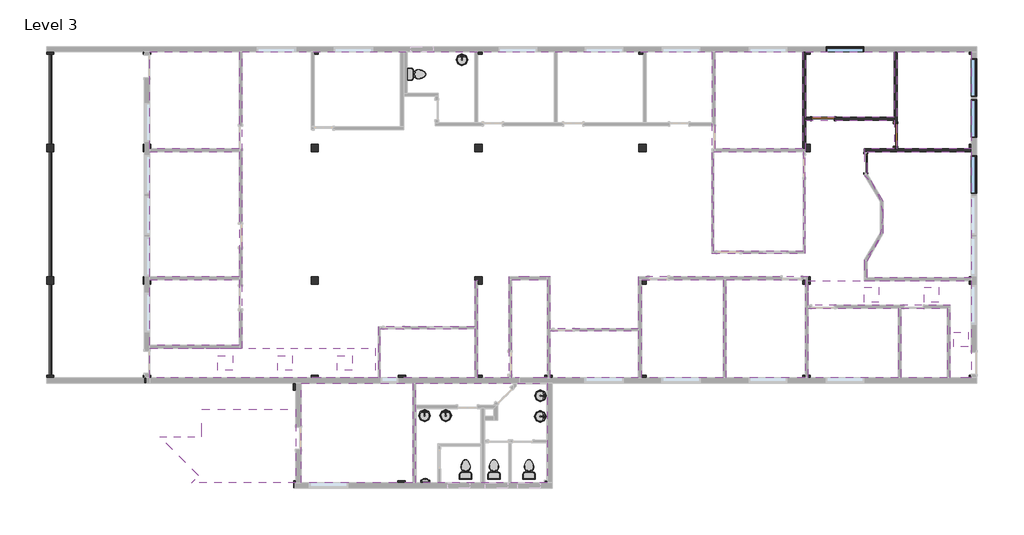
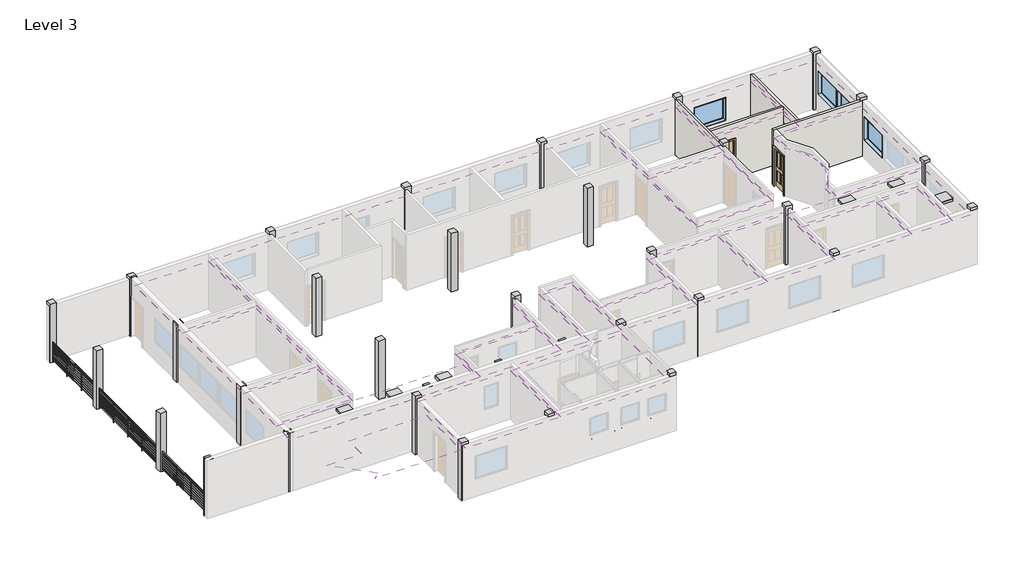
# One storey, part 4 of 4: 34 columns, 21 coverings, 10 flow terminals, 6 light fixtures, 4 walls, 4 windows, 3 doors, 3 railings.
"""IFC4 building model written with IfcOpenShell, lengths in millimetres."""

from ifc_helpers import new_model, si_unit, point, frame, frame_2d, origin, place, context, project, spatial, polyline, circle_curve, trimmed, segment, composite_curve, outline, extrude, faceted_brep, transform, mapped, element, save
from components import concrete_square_column_12_x_12_d780e21f, door_43f271b1, door_0f3f7c0c, door_bfc1a142, m_toilet_domestic_3d_m_toilet_domestic_3d_5cb52bd4, m_toilet_domestic_3d_m_toilet_domestic_3d_183bbd19, flow_terminal_5184717d, urinal_wall_3d_urinal_wall_3d_aeedfa41, m_troffer_lens_0600_x_0600mm_2_lamp_a75f89fe, guardrail_pipe_fa673746, guardrail_pipe_b7ba6c7b, guardrail_pipe_22772604, window_a0bf6c86

model = new_model("IFC4")

# Units and contexts
model_context = context("Model", 3, world=origin())
ifc_project = project(units=[si_unit("LENGTHUNIT", "METRE", prefix="MILLI")], contexts=[model_context])

# Site, building, storey
site = spatial("IfcSite", under=ifc_project)
building = spatial("IfcBuilding", under=site)
storey = spatial("IfcBuildingStorey", under=building, Name="Level 3", Elevation=0.0)

# Columns
placement = place(None, origin())
concrete_square_column_12_x_12_shape = concrete_square_column_12_x_12_d780e21f(model_context)
element("IfcColumn", 1, ObjectType="Concrete-Square-Column : 12 x 12", at=placement, inside=storey, context=model_context, shape_type="MappedRepresentation", body=[
    mapped(concrete_square_column_12_x_12_shape, transform((-26653.1437367, 9911.1191387, 0.0), x_axis=(1.0, 0.0, 0.0), y_axis=(0.0, 1.0, 0.0), z_axis=(0.0, 0.0, 1.0))),
])
element("IfcColumn", 2, ObjectType="Concrete-Square-Column : 12 x 12", at=placement, inside=storey, context=model_context, shape_type="MappedRepresentation", body=[
    mapped(concrete_square_column_12_x_12_shape, transform((-19795.1437367, 9911.1191387, 0.0), x_axis=(1.0, 0.0, 0.0), y_axis=(0.0, 1.0, 0.0), z_axis=(0.0, 0.0, 1.0))),
])
element("IfcColumn", 3, ObjectType="Concrete-Square-Column : 12 x 12", at=placement, inside=storey, context=model_context, shape_type="MappedRepresentation", body=[
    mapped(concrete_square_column_12_x_12_shape, transform((-13089.5437367, 9911.1191387, 0.0), x_axis=(1.0, 0.0, 0.0), y_axis=(0.0, 1.0, 0.0), z_axis=(0.0, 0.0, 1.0))),
])
element("IfcColumn", 4, ObjectType="Concrete-Square-Column : 12 x 12", at=placement, inside=storey, context=model_context, shape_type="MappedRepresentation", body=[
    mapped(concrete_square_column_12_x_12_shape, transform((-6383.9437367, 9911.1191387, 0.0), x_axis=(1.0, 0.0, 0.0), y_axis=(0.0, 1.0, 0.0), z_axis=(0.0, 0.0, 1.0))),
])
element("IfcColumn", 5, ObjectType="Concrete-Square-Column : 12 x 12", at=placement, inside=storey, context=model_context, shape_type="MappedRepresentation", body=[
    mapped(concrete_square_column_12_x_12_shape, transform((321.6562633, 9911.1191387, 0.0), x_axis=(1.0, 0.0, 0.0), y_axis=(0.0, 1.0, 0.0), z_axis=(0.0, 0.0, 1.0))),
])
element("IfcColumn", 6, ObjectType="Concrete-Square-Column : 12 x 12", at=placement, inside=storey, context=model_context, shape_type="MappedRepresentation", body=[
    mapped(concrete_square_column_12_x_12_shape, transform((7124.0937633, 9911.1191387, 0.0), x_axis=(1.0, 0.0, 0.0), y_axis=(0.0, 1.0, 0.0), z_axis=(0.0, 0.0, 1.0))),
])
element("IfcColumn", 7, ObjectType="Concrete-Square-Column : 12 x 12", at=placement, inside=storey, context=model_context, shape_type="MappedRepresentation", body=[
    mapped(concrete_square_column_12_x_12_shape, transform((-26653.1437367, 5928.0816387, 0.0), x_axis=(1.0, 0.0, 0.0), y_axis=(0.0, 1.0, 0.0), z_axis=(0.0, 0.0, 1.0))),
])
element("IfcColumn", 8, ObjectType="Concrete-Square-Column : 12 x 12", at=placement, inside=storey, context=model_context, shape_type="MappedRepresentation", body=[
    mapped(concrete_square_column_12_x_12_shape, transform((-26653.1437367, 514.7066387, 0.0), x_axis=(1.0, 0.0, 0.0), y_axis=(0.0, 1.0, 0.0), z_axis=(0.0, 0.0, 1.0))),
])
element("IfcColumn", 9, ObjectType="Concrete-Square-Column : 12 x 12", at=placement, inside=storey, context=model_context, shape_type="MappedRepresentation", body=[
    mapped(concrete_square_column_12_x_12_shape, transform((-26653.1437367, -3531.8308613, 0.0), x_axis=(1.0, 0.0, 0.0), y_axis=(0.0, 1.0, 0.0), z_axis=(0.0, 0.0, 1.0))),
])
element("IfcColumn", 10, ObjectType="Concrete-Square-Column : 12 x 12", at=placement, inside=storey, context=model_context, shape_type="MappedRepresentation", body=[
    mapped(concrete_square_column_12_x_12_shape, transform((-19795.1437367, -3531.8308613, 0.0), x_axis=(1.0, 0.0, 0.0), y_axis=(0.0, 1.0, 0.0), z_axis=(0.0, 0.0, 1.0))),
])
element("IfcColumn", 11, ObjectType="Concrete-Square-Column : 12 x 12", at=placement, inside=storey, context=model_context, shape_type="MappedRepresentation", body=[
    mapped(concrete_square_column_12_x_12_shape, transform((-19795.1437367, 514.7066387, 0.0), x_axis=(1.0, 0.0, 0.0), y_axis=(0.0, 1.0, 0.0), z_axis=(0.0, 0.0, 1.0))),
])
element("IfcColumn", 12, ObjectType="Concrete-Square-Column : 12 x 12", at=placement, inside=storey, context=model_context, shape_type="MappedRepresentation", body=[
    mapped(concrete_square_column_12_x_12_shape, transform((-13089.5437367, 514.7066387, 0.0), x_axis=(1.0, 0.0, 0.0), y_axis=(0.0, 1.0, 0.0), z_axis=(0.0, 0.0, 1.0))),
])
element("IfcColumn", 13, ObjectType="Concrete-Square-Column : 12 x 12", at=placement, inside=storey, context=model_context, shape_type="MappedRepresentation", body=[
    mapped(concrete_square_column_12_x_12_shape, transform((-13089.5437367, -3531.8308613, 0.0), x_axis=(1.0, 0.0, 0.0), y_axis=(0.0, 1.0, 0.0), z_axis=(0.0, 0.0, 1.0))),
])
element("IfcColumn", 14, ObjectType="Concrete-Square-Column : 12 x 12", at=placement, inside=storey, context=model_context, shape_type="MappedRepresentation", body=[
    mapped(concrete_square_column_12_x_12_shape, transform((-6383.9437367, -3531.8308613, 0.0), x_axis=(1.0, 0.0, 0.0), y_axis=(0.0, 1.0, 0.0), z_axis=(0.0, 0.0, 1.0))),
])
element("IfcColumn", 15, ObjectType="Concrete-Square-Column : 12 x 12", at=placement, inside=storey, context=model_context, shape_type="MappedRepresentation", body=[
    mapped(concrete_square_column_12_x_12_shape, transform((-6383.9437367, 514.7066387, 0.0), x_axis=(1.0, 0.0, 0.0), y_axis=(0.0, 1.0, 0.0), z_axis=(0.0, 0.0, 1.0))),
])
element("IfcColumn", 16, ObjectType="Concrete-Square-Column : 12 x 12", at=placement, inside=storey, context=model_context, shape_type="MappedRepresentation", body=[
    mapped(concrete_square_column_12_x_12_shape, transform((321.6562633, 514.7066387, 0.0), x_axis=(1.0, 0.0, 0.0), y_axis=(0.0, 1.0, 0.0), z_axis=(0.0, 0.0, 1.0))),
])
element("IfcColumn", 17, ObjectType="Concrete-Square-Column : 12 x 12", at=placement, inside=storey, context=model_context, shape_type="MappedRepresentation", body=[
    mapped(concrete_square_column_12_x_12_shape, transform((321.6562633, -3531.8308613, 0.0), x_axis=(1.0, 0.0, 0.0), y_axis=(0.0, 1.0, 0.0), z_axis=(0.0, 0.0, 1.0))),
])
element("IfcColumn", 18, ObjectType="Concrete-Square-Column : 12 x 12", at=placement, inside=storey, context=model_context, shape_type="MappedRepresentation", body=[
    mapped(concrete_square_column_12_x_12_shape, transform((7124.0937633, -3531.8308613, 0.0), x_axis=(1.0, 0.0, 0.0), y_axis=(0.0, 1.0, 0.0), z_axis=(0.0, 0.0, 1.0))),
])
element("IfcColumn", 19, ObjectType="Concrete-Square-Column : 12 x 12", at=placement, inside=storey, context=model_context, shape_type="MappedRepresentation", body=[
    mapped(concrete_square_column_12_x_12_shape, transform((7124.0937633, 514.7066387, 0.0), x_axis=(1.0, 0.0, 0.0), y_axis=(0.0, 1.0, 0.0), z_axis=(0.0, 0.0, 1.0))),
])
element("IfcColumn", 20, ObjectType="Concrete-Square-Column : 12 x 12", at=placement, inside=storey, context=model_context, shape_type="MappedRepresentation", body=[
    mapped(concrete_square_column_12_x_12_shape, transform((7124.0937633, 5928.0816387, 0.0), x_axis=(1.0, 0.0, 0.0), y_axis=(0.0, 1.0, 0.0), z_axis=(0.0, 0.0, 1.0))),
])
element("IfcColumn", 21, ObjectType="Concrete-Square-Column : 12 x 12", at=placement, inside=storey, context=model_context, shape_type="MappedRepresentation", body=[
    mapped(concrete_square_column_12_x_12_shape, transform((321.6562633, 5928.0816387, 0.0), x_axis=(1.0, 0.0, 0.0), y_axis=(0.0, 1.0, 0.0), z_axis=(0.0, 0.0, 1.0))),
])
element("IfcColumn", 22, ObjectType="Concrete-Square-Column : 12 x 12", at=placement, inside=storey, context=model_context, shape_type="MappedRepresentation", body=[
    mapped(concrete_square_column_12_x_12_shape, transform((-6383.9437367, 5928.0816387, 0.0), x_axis=(1.0, 0.0, 0.0), y_axis=(0.0, 1.0, 0.0), z_axis=(0.0, 0.0, 1.0))),
])
element("IfcColumn", 23, ObjectType="Concrete-Square-Column : 12 x 12", at=placement, inside=storey, context=model_context, shape_type="MappedRepresentation", body=[
    mapped(concrete_square_column_12_x_12_shape, transform((-13089.5437367, 5928.0816387, 0.0), x_axis=(1.0, 0.0, 0.0), y_axis=(0.0, 1.0, 0.0), z_axis=(0.0, 0.0, 1.0))),
])
element("IfcColumn", 24, ObjectType="Concrete-Square-Column : 12 x 12", at=placement, inside=storey, context=model_context, shape_type="MappedRepresentation", body=[
    mapped(concrete_square_column_12_x_12_shape, transform((-19795.1437367, 5928.0816387, 0.0), x_axis=(1.0, 0.0, 0.0), y_axis=(0.0, 1.0, 0.0), z_axis=(0.0, 0.0, 1.0))),
])
element("IfcColumn", 25, ObjectType="Concrete-Square-Column : 12 x 12", at=placement, inside=storey, context=model_context, shape_type="MappedRepresentation", body=[
    mapped(concrete_square_column_12_x_12_shape, transform((-30615.5437367, -3531.8308613, 0.0), x_axis=(1.0, 0.0, 0.0), y_axis=(0.0, 1.0, 0.0), z_axis=(0.0, 0.0, 1.0))),
])
element("IfcColumn", 26, ObjectType="Concrete-Square-Column : 12 x 12", at=placement, inside=storey, context=model_context, shape_type="MappedRepresentation", body=[
    mapped(concrete_square_column_12_x_12_shape, transform((-30615.5437367, 514.7066387, 0.0), x_axis=(1.0, 0.0, 0.0), y_axis=(0.0, 1.0, 0.0), z_axis=(0.0, 0.0, 1.0))),
])
element("IfcColumn", 27, ObjectType="Concrete-Square-Column : 12 x 12", at=placement, inside=storey, context=model_context, shape_type="MappedRepresentation", body=[
    mapped(concrete_square_column_12_x_12_shape, transform((-30615.5437367, 5928.0816387, 0.0), x_axis=(1.0, 0.0, 0.0), y_axis=(0.0, 1.0, 0.0), z_axis=(0.0, 0.0, 1.0))),
])
element("IfcColumn", 28, ObjectType="Concrete-Square-Column : 12 x 12", at=placement, inside=storey, context=model_context, shape_type="MappedRepresentation", body=[
    mapped(concrete_square_column_12_x_12_shape, transform((-30615.5437367, 9911.1191387, 0.0), x_axis=(1.0, 0.0, 0.0), y_axis=(0.0, 1.0, 0.0), z_axis=(0.0, 0.0, 1.0))),
])
element("IfcColumn", 29, ObjectType="Concrete-Square-Column : 12 x 12", at=placement, inside=storey, context=model_context, shape_type="MappedRepresentation", body=[
    mapped(concrete_square_column_12_x_12_shape, transform((-10236.8062367, -3531.8308613, 0.0), x_axis=(1.0, 0.0, 0.0), y_axis=(0.0, 1.0, 0.0), z_axis=(0.0, 0.0, 1.0))),
])
element("IfcColumn", 30, ObjectType="Concrete-Square-Column : 12 x 12", at=placement, inside=storey, context=model_context, shape_type="MappedRepresentation", body=[
    mapped(concrete_square_column_12_x_12_shape, transform((-10236.8062367, -7829.1933613, 0.0), x_axis=(1.0, 0.0, 0.0), y_axis=(0.0, 1.0, 0.0), z_axis=(0.0, 0.0, 1.0))),
])
element("IfcColumn", 31, ObjectType="Concrete-Square-Column : 12 x 12", at=placement, inside=storey, context=model_context, shape_type="MappedRepresentation", body=[
    mapped(concrete_square_column_12_x_12_shape, transform((-16232.7937367, -3531.8308613, 0.0), x_axis=(1.0, 0.0, 0.0), y_axis=(0.0, 1.0, 0.0), z_axis=(0.0, 0.0, 1.0))),
])
element("IfcColumn", 32, ObjectType="Concrete-Square-Column : 12 x 12", at=placement, inside=storey, context=model_context, shape_type="MappedRepresentation", body=[
    mapped(concrete_square_column_12_x_12_shape, transform((-20515.8687367, -3836.6308613, 0.0), x_axis=(1.0, 0.0, 0.0), y_axis=(0.0, 1.0, 0.0), z_axis=(0.0, 0.0, 1.0))),
])
element("IfcColumn", 33, ObjectType="Concrete-Square-Column : 12 x 12", at=placement, inside=storey, context=model_context, shape_type="MappedRepresentation", body=[
    mapped(concrete_square_column_12_x_12_shape, transform((-16241.6288114, -7829.1933613, 0.0), x_axis=(1.0, 0.0, 0.0), y_axis=(0.0, 1.0, 0.0), z_axis=(0.0, 0.0, 1.0))),
])
element("IfcColumn", 34, ObjectType="Concrete-Square-Column : 12 x 12", at=placement, inside=storey, context=model_context, shape_type="MappedRepresentation", body=[
    mapped(concrete_square_column_12_x_12_shape, transform((-20508.8288114, -7829.1933613, 0.0), x_axis=(1.0, 0.0, 0.0), y_axis=(0.0, 1.0, 0.0), z_axis=(0.0, 0.0, 1.0))),
])

# Coverings
element("IfcCovering", 35, ObjectType="2' x 4' ACT System", at=placement, inside=storey, context=model_context, shape_type="SweptSolid", body=[
    extrude(outline(polyline([(-26543.6062367, 5899.5066387), (-26543.6062367, 9857.1441387), (-22890.7687367, 9857.1441387), (-22890.7687367, 5899.5066387), (-26543.6062367, 5899.5066387)])), frame((0.0, 0.0, 2514.6), z_axis=(0.0, 0.0, 1.0), x_axis=(1.0, 0.0, 0.0)), (0.0, 0.0, 1.0), 57.15),
])
element("IfcCovering", 36, ObjectType="2' x 4' ACT System", at=placement, inside=storey, context=model_context, shape_type="SweptSolid", body=[
    extrude(outline(polyline([(-22890.7687367, 667.1066387), (-26543.6062367, 667.1066387), (-26543.6062367, 5775.6816387), (-22890.7687367, 5775.6816387), (-22890.7687367, 667.1066387)])), frame((0.0, 0.0, 2514.6), z_axis=(0.0, 0.0, 1.0), x_axis=(1.0, 0.0, 0.0)), (0.0, 0.0, 1.0), 57.15),
])
element("IfcCovering", 37, ObjectType="2' x 4' ACT System", at=placement, inside=storey, context=model_context, shape_type="SweptSolid", body=[
    extrude(outline(polyline([(-22890.7687367, -2145.4141947), (-26543.6062367, -2145.4141947), (-26543.6062367, 543.2816387), (-22890.7687367, 543.2816387), (-22890.7687367, -2145.4141947)])), frame((0.0, 0.0, 2514.6), z_axis=(0.0, 0.0, 1.0), x_axis=(1.0, 0.0, 0.0)), (0.0, 0.0, 1.0), 57.15),
])
element("IfcCovering", 38, ObjectType="2' x 4' ACT System", at=placement, inside=storey, context=model_context, shape_type="SweptSolid", body=[
    extrude(outline(polyline([(-3413.7312367, 9857.1441387), (169.2562633, 9857.1441387), (169.2562633, 5893.1566387), (-3413.7312367, 5893.1566387), (-3413.7312367, 9857.1441387)])), frame((0.0, 0.0, 2514.6), z_axis=(0.0, 0.0, 1.0), x_axis=(1.0, 0.0, 0.0)), (0.0, 0.0, 1.0), 57.15),
])
element("IfcCovering", 39, ObjectType="2' x 4' ACT System", at=placement, inside=storey, context=model_context, shape_type="SweptSolid", body=[
    extrude(outline(polyline([(293.0812633, 9857.1441387), (3903.0562633, 9857.1441387), (3903.0562633, 7182.2066387), (293.0812633, 7182.2066387), (293.0812633, 9857.1441387)])), frame((0.0, 0.0, 2514.6), z_axis=(0.0, 0.0, 1.0), x_axis=(1.0, 0.0, 0.0)), (0.0, 0.0, 1.0), 57.15),
])
element("IfcCovering", 40, ObjectType="2' x 4' ACT System", at=placement, inside=storey, context=model_context, shape_type="SweptSolid", body=[
    extrude(outline(polyline([(4026.8812633, 9857.1441387), (7070.1187633, 9857.1441387), (7070.1187633, 5893.1566387), (4026.8812633, 5893.1566387), (4026.8812633, 9857.1441387)])), frame((0.0, 0.0, 2514.6), z_axis=(0.0, 0.0, 1.0), x_axis=(1.0, 0.0, 0.0)), (0.0, 0.0, 1.0), 57.15),
])
element("IfcCovering", 41, ObjectType="2' x 4' ACT System", at=placement, inside=storey, context=model_context, shape_type="SweptSolid", body=[
    extrude(outline(composite_curve([segment(polyline([(2807.6812633, 5769.3316387), (7070.1187633, 5769.3316387), (7070.1187633, 622.6566387), (2807.6812633, 622.6566387), (2807.6812633, 1302.9026762)]), True, "CONTINUOUS"), segment(trimmed(circle_curve(frame_2d((1057.0149454, 3088.0441387)), 2500.3125), [point((2807.6812633, 1302.9026762))], [point((2807.6812633, 4873.1856011))], True, "CARTESIAN"), True, "CONTINUOUS"), segment(polyline([(2807.6812633, 4873.1856011), (2807.6812633, 5769.3316387)]), True, "CONTINUOUS")], self_intersect=False)), frame((0.0, 0.0, 2514.6), z_axis=(0.0, 0.0, 1.0), x_axis=(1.0, 0.0, 0.0)), (0.0, 0.0, 1.0), 57.15),
])
element("IfcCovering", 42, ObjectType="2' x 4' ACT System", at=placement, inside=storey, context=model_context, shape_type="SweptSolid", body=[
    extrude(outline(polyline([(-3466.1187367, 1700.5691387), (-3466.1187367, 5769.3316387), (191.4812633, 5769.3316387), (191.4812633, 1700.5691387), (-3466.1187367, 1700.5691387)])), frame((0.0, 0.0, 2514.6), z_axis=(0.0, 0.0, 1.0), x_axis=(1.0, 0.0, 0.0)), (0.0, 0.0, 1.0), 57.15),
])
element("IfcCovering", 43, ObjectType="2' x 4' ACT System", at=placement, inside=storey, context=model_context, shape_type="SweptSolid", body=[
    extrude(outline(polyline([(-2956.5312367, 543.2816387), (259.7437633, 543.2816387), (259.7437633, -3477.8558613), (-2956.5312367, -3477.8558613), (-2956.5312367, 543.2816387)])), frame((0.0, 0.0, 2514.6), z_axis=(0.0, 0.0, 1.0), x_axis=(1.0, 0.0, 0.0)), (0.0, 0.0, 1.0), 57.15),
])
element("IfcCovering", 44, ObjectType="2' x 4' ACT System", at=placement, inside=storey, context=model_context, shape_type="SweptSolid", body=[
    extrude(outline(polyline([(-6428.3937367, 543.2816387), (-3080.3562367, 543.2816387), (-3080.3562367, -3477.8558613), (-6428.3937367, -3477.8558613), (-6428.3937367, 543.2816387)])), frame((0.0, 0.0, 2514.6), z_axis=(0.0, 0.0, 1.0), x_axis=(1.0, 0.0, 0.0)), (0.0, 0.0, 1.0), 57.15),
])
element("IfcCovering", 45, ObjectType="2' x 4' ACT System", at=placement, inside=storey, context=model_context, shape_type="SweptSolid", body=[
    extrude(outline(polyline([(4068.1562633, -3477.8558613), (383.5687633, -3477.8558613), (383.5687633, -631.4683613), (4068.1562633, -631.4683613), (4068.1562633, -3477.8558613)])), frame((0.0, 0.0, 2514.6), z_axis=(0.0, 0.0, 1.0), x_axis=(1.0, 0.0, 0.0)), (0.0, 0.0, 1.0), 57.15),
])
element("IfcCovering", 46, ObjectType="2' x 4' ACT System", at=placement, inside=storey, context=model_context, shape_type="SweptSolid", body=[
    extrude(outline(polyline([(6079.5187633, -3477.8558613), (4191.9812633, -3477.8558613), (4191.9812633, -631.4683613), (6079.5187633, -631.4683613), (6079.5187633, -3477.8558613)])), frame((0.0, 0.0, 2514.6), z_axis=(0.0, 0.0, 1.0), x_axis=(1.0, 0.0, 0.0)), (0.0, 0.0, 1.0), 57.15),
])
element("IfcCovering", 47, ObjectType="2' x 4' ACT System", at=placement, inside=storey, context=model_context, shape_type="SweptSolid", body=[
    extrude(outline(polyline([(-10157.4312367, -1555.3933613), (-6552.2187367, -1555.3933613), (-6552.2187367, -3477.8558613), (-10157.4312367, -3477.8558613), (-10157.4312367, -1555.3933613)])), frame((0.0, 0.0, 2514.6), z_axis=(0.0, 0.0, 1.0), x_axis=(1.0, 0.0, 0.0)), (0.0, 0.0, 1.0), 57.15),
])
element("IfcCovering", 48, ObjectType="2' x 4' ACT System", at=placement, inside=storey, context=model_context, shape_type="SweptSolid", body=[
    extrude(outline(polyline([(-11744.9312367, 543.2816387), (-10281.2562367, 543.2816387), (-10281.2562367, -3477.8558613), (-11425.8437367, -3477.8558613), (-11744.9312367, -3477.8558613), (-11744.9312367, 543.2816387)])), frame((0.0, 0.0, 2514.6), z_axis=(0.0, 0.0, 1.0), x_axis=(1.0, 0.0, 0.0)), (0.0, 0.0, 1.0), 57.15),
])
element("IfcCovering", 49, ObjectType="2' x 4' ACT System", at=placement, inside=storey, context=model_context, shape_type="SweptSolid", body=[
    extrude(outline(polyline([(-17121.7937367, -1463.3183613), (-13257.8187367, -1463.3183613), (-13257.8187367, -3477.8558613), (-17121.7937367, -3477.8558613), (-17121.7937367, -1463.3183613)])), frame((0.0, 0.0, 2514.6), z_axis=(0.0, 0.0, 1.0), x_axis=(1.0, 0.0, 0.0)), (0.0, 0.0, 1.0), 57.15),
])
element("IfcCovering", 50, ObjectType="2' x 4' ACT System", at=placement, inside=storey, context=model_context, shape_type="SweptSolid", body=[
    extrude(outline(polyline([(-15789.8812367, -3696.9308613), (-15789.8812367, -7775.2183613), (-20357.1187367, -7775.2183613), (-20357.1187367, -3696.9308613), (-15789.8812367, -3696.9308613)])), frame((0.0, 0.0, 2514.6), z_axis=(0.0, 0.0, 1.0), x_axis=(1.0, 0.0, 0.0)), (0.0, 0.0, 1.0), 57.15),
])
element("IfcCovering", 51, ObjectType="2' x 4' ACT System", at=placement, inside=storey, context=model_context, shape_type="SweptSolid", body=[
    extrude(outline(polyline([(-20577.7812367, -4763.7308613), (-20577.7812367, -7775.2183613), (-24820.8636362, -7775.2183613), (-24537.54093, -7491.8956552), (-26143.2483849, -5886.1882003), (-24410.0062367, -5886.1882003), (-24410.0062367, -4763.7308613), (-20577.7812367, -4763.7308613)])), frame((0.0, 0.0, 2514.6), z_axis=(0.0, 0.0, 1.0), x_axis=(1.0, 0.0, 0.0)), (0.0, 0.0, 1.0), 57.15),
])
element("IfcCovering", 52, ObjectType="2' x 4' ACT System", at=placement, inside=storey, context=model_context, shape_type="SweptSolid", body=[
    extrude(outline(polyline([(383.5687633, 498.8316387), (7070.1187633, 498.8316387), (7070.1187633, -3477.8558613), (6203.3437633, -3477.8558613), (6203.3437633, -507.6433613), (383.5687633, -507.6433613), (383.5687633, 498.8316387)]), holes=[polyline([(6940.6164695, -1605.3996113), (6340.6164695, -1605.3996113), (6340.6164695, -2205.3996113), (6940.6164695, -2205.3996113), (6940.6164695, -1605.3996113)]), polyline([(5731.0164695, 223.4003887), (5131.0164695, 223.4003887), (5131.0164695, -376.5996113), (5731.0164695, -376.5996113), (5731.0164695, 223.4003887)]), polyline([(3283.0164695, 223.4003887), (2683.0164695, 223.4003887), (2683.0164695, -376.5996113), (3283.0164695, -376.5996113), (3283.0164695, 223.4003887)])]), frame((0.0, 0.0, 2514.6), z_axis=(0.0, 0.0, 1.0), x_axis=(1.0, 0.0, 0.0)), (0.0, 0.0, 1.0), 57.15),
])
element("IfcCovering", 53, ObjectType="2' x 4' ACT System", at=placement, inside=storey, context=model_context, shape_type="SweptSolid", body=[
    extrude(outline(polyline([(-17313.8812367, -2269.2391947), (-17313.8812367, -3477.8558613), (-26543.6062367, -3477.8558613), (-26543.6062367, -2269.2391947), (-17313.8812367, -2269.2391947)]), holes=[polyline([(-23157.5437367, -2568.822528), (-23757.5437367, -2568.822528), (-23757.5437367, -3168.822528), (-23157.5437367, -3168.822528), (-23157.5437367, -2568.822528)]), polyline([(-18267.9687367, -2573.0558613), (-18867.9687367, -2573.0558613), (-18867.9687367, -3173.0558613), (-18267.9687367, -3173.0558613), (-18267.9687367, -2573.0558613)]), polyline([(-20706.3687367, -2573.0558613), (-21306.3687367, -2573.0558613), (-21306.3687367, -3173.0558613), (-20706.3687367, -3173.0558613), (-20706.3687367, -2573.0558613)])]), frame((0.0, 0.0, 2514.6), z_axis=(0.0, 0.0, 1.0), x_axis=(1.0, 0.0, 0.0)), (0.0, 0.0, 1.0), 57.15),
])
element("IfcCovering", 54, ObjectType="2' x 4' ACT System", at=placement, inside=storey, context=model_context, shape_type="SweptSolid", body=[
    extrude(outline(polyline([(-10290.7812367, -3696.9308613), (-10290.7812367, -7775.2183613), (-15666.0562367, -7775.2183613), (-15666.0562367, -3696.9308613), (-10290.7812367, -3696.9308613)])), frame((0.0, 0.0, 2514.6), z_axis=(0.0, 0.0, 1.0), x_axis=(1.0, 0.0, 0.0)), (0.0, 0.0, 1.0), 57.15),
])
element("IfcCovering", 55, ObjectType="2' x 4' ACT System", at=placement, inside=storey, context=model_context, shape_type="SweptSolid", body=[
    extrude(outline(composite_curve([segment(polyline([(-17201.1687367, -3477.8558613), (-26543.6062367, -3477.8558613), (-26543.6062367, -2269.2391947), (-22766.9437367, -2269.2391947), (-22766.9437367, 9857.1441387), (-3545.4937367, 9857.1441387), (-3545.4937367, 1621.1941387), (270.8562633, 1621.1941387), (270.8562633, 5831.2441387), (293.0812633, 5831.2441387), (293.0812633, 7058.3816387), (3903.0562633, 7058.3816387), (3903.0562633, 5893.1566387), (2683.8562633, 5893.1566387), (2683.8562633, 4820.4067347)]), True, "CONTINUOUS"), segment(trimmed(circle_curve(frame_2d((1057.0149454, 3088.0441387)), 2376.4875), [point((2683.8562633, 4820.4067347))], [point((2683.8562633, 1355.6815427))], False, "CARTESIAN"), True, "CONTINUOUS"), segment(polyline([(2683.8562633, 1355.6815427), (2683.8562633, 498.8316387), (7070.1187633, 498.8316387), (7070.1187633, -3477.8558613), (6203.3437633, -3477.8558613), (6203.3437633, -507.6433613), (383.5687633, -507.6433613), (383.5687633, 667.1066387), (-6552.2187367, 667.1066387), (-6552.2187367, -1476.0183613), (-10157.4312367, -1476.0183613), (-10157.4312367, 667.1066387), (-11868.7562367, 667.1066387), (-11868.7562367, -3477.8558613), (-13133.9937367, -3477.8558613), (-13133.9937367, 497.2441387), (-13257.8187367, 497.2441387), (-13257.8187367, -1383.9433613), (-17201.1687367, -1383.9433613), (-17201.1687367, -3477.8558613)]), True, "CONTINUOUS")], self_intersect=False)), frame((0.0, 0.0, 2514.6), z_axis=(0.0, 0.0, 1.0), x_axis=(1.0, 0.0, 0.0)), (0.0, 0.0, 1.0), 57.15),
])

# Doors
door_shape = door_43f271b1(model_context)
element("IfcDoor", 56, ObjectType="Single-Flush : 36\" x 80\" - D1", at=placement, inside=storey, context=model_context, shape_type="MappedRepresentation", body=[
    mapped(door_shape, transform((3964.9687633, 6459.8941387, 0.0), x_axis=(0.0, -1.0, 0.0), y_axis=(1.0, 0.0, 0.0), z_axis=(0.0, 0.0, 1.0))),
])
door_2_shape = door_0f3f7c0c(model_context)
element("IfcDoor", 57, ObjectType="Single-Flush : 36\" x 80\" - D1", at=placement, inside=storey, context=model_context, shape_type="MappedRepresentation", body=[
    mapped(door_2_shape, transform((1001.1062633, 7120.2941387, 0.0), x_axis=(-1.0, 0.0, 0.0), y_axis=(0.0, -1.0, 0.0), z_axis=(0.0, 0.0, 1.0))),
])
door_3_shape = door_bfc1a142(model_context)
element("IfcDoor", 58, ObjectType="Single-Glass 3 : 30\" x 80\" - D3", at=placement, inside=storey, context=model_context, shape_type="MappedRepresentation", body=[
    mapped(door_3_shape, transform((2745.7687633, 5304.1941387, 0.0), x_axis=(0.0, 1.0, 0.0), y_axis=(-1.0, 0.0, 0.0), z_axis=(0.0, 0.0, 1.0))),
])

# Flow terminals
m_toilet_domestic_3d_m_toilet_domestic_3d_shape = m_toilet_domestic_3d_m_toilet_domestic_3d_5cb52bd4(model_context)
m_toilet_domestic_3d_m_toilet_domestic_3d_2_shape = m_toilet_domestic_3d_m_toilet_domestic_3d_183bbd19(model_context)
element("IfcFlowTerminal", 59, ObjectType="M_Toilet-Domestic-3D : M_Toilet-Domestic-3D", at=placement, inside=storey, context=model_context, shape_type="MappedRepresentation", body=[
    mapped(m_toilet_domestic_3d_m_toilet_domestic_3d_shape, transform((-15554.9312367, 8942.7441387, 0.0), x_axis=(0.0, 1.0, 0.0), y_axis=(-1.0, 0.0, 0.0), z_axis=(0.0, 0.0, 1.0))),
    mapped(m_toilet_domestic_3d_m_toilet_domestic_3d_2_shape, transform((-15554.9312367, 8942.7441387, 0.0), x_axis=(0.0, 1.0, 0.0), y_axis=(-1.0, 0.0, 0.0), z_axis=(0.0, 0.0, 1.0))),
])
element("IfcFlowTerminal", 60, ObjectType="M_Toilet-Domestic-3D : M_Toilet-Domestic-3D", at=placement, inside=storey, context=model_context, shape_type="MappedRepresentation", body=[
    mapped(m_toilet_domestic_3d_m_toilet_domestic_3d_shape, transform((-13622.9437367, -7128.122334, 0.0), x_axis=(-1.0, 0.0, 0.0), y_axis=(0.0, -1.0, 0.0), z_axis=(0.0, 0.0, 1.0))),
    mapped(m_toilet_domestic_3d_m_toilet_domestic_3d_2_shape, transform((-13622.9437367, -7128.122334, 0.0), x_axis=(-1.0, 0.0, 0.0), y_axis=(0.0, -1.0, 0.0), z_axis=(0.0, 0.0, 1.0))),
])
element("IfcFlowTerminal", 61, ObjectType="M_Toilet-Domestic-3D : M_Toilet-Domestic-3D", at=placement, inside=storey, context=model_context, shape_type="MappedRepresentation", body=[
    mapped(m_toilet_domestic_3d_m_toilet_domestic_3d_shape, transform((-12463.5969338, -7128.122334, 0.0), x_axis=(-1.0, 0.0, 0.0), y_axis=(0.0, -1.0, 0.0), z_axis=(0.0, 0.0, 1.0))),
    mapped(m_toilet_domestic_3d_m_toilet_domestic_3d_2_shape, transform((-12463.5969338, -7128.122334, 0.0), x_axis=(-1.0, 0.0, 0.0), y_axis=(0.0, -1.0, 0.0), z_axis=(0.0, 0.0, 1.0))),
])
element("IfcFlowTerminal", 62, ObjectType="M_Toilet-Domestic-3D : M_Toilet-Domestic-3D", at=placement, inside=storey, context=model_context, shape_type="MappedRepresentation", body=[
    mapped(m_toilet_domestic_3d_m_toilet_domestic_3d_shape, transform((-11029.7624867, -7128.122334, 0.0), x_axis=(-1.0, 0.0, 0.0), y_axis=(0.0, -1.0, 0.0), z_axis=(0.0, 0.0, 1.0))),
    mapped(m_toilet_domestic_3d_m_toilet_domestic_3d_2_shape, transform((-11029.7624867, -7128.122334, 0.0), x_axis=(-1.0, 0.0, 0.0), y_axis=(0.0, -1.0, 0.0), z_axis=(0.0, 0.0, 1.0))),
])
flow_terminal_shape = flow_terminal_5184717d(model_context)
element("IfcFlowTerminal", 63, ObjectType="Sink Vanity-Round : 19\" x 19\"", at=placement, inside=storey, context=model_context, shape_type="MappedRepresentation", body=[
    mapped(flow_terminal_shape, transform((-13871.9954773, 9453.1948467, 0.0), x_axis=(1.0, 0.0, 0.0), y_axis=(0.0, 1.0, 0.0), z_axis=(0.0, 0.0, 1.0))),
])
element("IfcFlowTerminal", 64, ObjectType="Sink Vanity-Round : 19\" x 19\"", at=placement, inside=storey, context=model_context, shape_type="MappedRepresentation", body=[
    mapped(flow_terminal_shape, transform((-10648.1566378, -4115.4228708, 0.0), x_axis=(0.0, -1.0, 0.0), y_axis=(1.0, 0.0, 0.0), z_axis=(0.0, 0.0, 1.0))),
])
element("IfcFlowTerminal", 65, ObjectType="Sink Vanity-Round : 19\" x 19\"", at=placement, inside=storey, context=model_context, shape_type="MappedRepresentation", body=[
    mapped(flow_terminal_shape, transform((-10653.9209952, -4959.1791208, 0.0), x_axis=(0.0, -1.0, 0.0), y_axis=(1.0, 0.0, 0.0), z_axis=(0.0, 0.0, 1.0))),
])
element("IfcFlowTerminal", 66, ObjectType="Sink Vanity-Round : 19\" x 19\"", at=placement, inside=storey, context=model_context, shape_type="MappedRepresentation", body=[
    mapped(flow_terminal_shape, transform((-14535.5704773, -5108.5957547, 0.0), x_axis=(1.0, 0.0, 0.0), y_axis=(0.0, 1.0, 0.0), z_axis=(0.0, 0.0, 1.0))),
])
element("IfcFlowTerminal", 67, ObjectType="Sink Vanity-Round : 19\" x 19\"", at=placement, inside=storey, context=model_context, shape_type="MappedRepresentation", body=[
    mapped(flow_terminal_shape, transform((-15399.1704773, -5108.5957547, 0.0), x_axis=(1.0, 0.0, 0.0), y_axis=(0.0, 1.0, 0.0), z_axis=(0.0, 0.0, 1.0))),
])
urinal_wall_3d_urinal_wall_3d_shape = urinal_wall_3d_urinal_wall_3d_aeedfa41(model_context)
element("IfcFlowTerminal", 68, ObjectType="Urinal-Wall-3D : Urinal-Wall-3D", at=placement, inside=storey, context=model_context, shape_type="MappedRepresentation", body=[
    mapped(urinal_wall_3d_urinal_wall_3d_shape, transform((-15168.0441368, -7884.7558613, 0.0), x_axis=(1.0, 0.0, 0.0), y_axis=(0.0, 1.0, 0.0), z_axis=(0.0, 0.0, 1.0))),
])

# Light fixtures
m_troffer_lens_0600_x_0600mm_2_lamp_shape = m_troffer_lens_0600_x_0600mm_2_lamp_a75f89fe(model_context)
element("IfcLightFixture", 69, ObjectType="M_Troffer - Lens : 0600 x 0600mm (2 Lamp)", at=placement, inside=storey, context=model_context, shape_type="MappedRepresentation", body=[
    mapped(m_troffer_lens_0600_x_0600mm_2_lamp_shape, transform((-20987.6652351, -2813.5899293, 76.2), x_axis=(1.0, 0.0, 0.0), y_axis=(0.0, 1.0, 0.0), z_axis=(0.0, 0.0, 1.0))),
])
element("IfcLightFixture", 70, ObjectType="M_Troffer - Lens : 0600 x 0600mm (2 Lamp)", at=placement, inside=storey, context=model_context, shape_type="MappedRepresentation", body=[
    mapped(m_troffer_lens_0600_x_0600mm_2_lamp_shape, transform((-18549.2652351, -2813.5899293, 76.2), x_axis=(1.0, 0.0, 0.0), y_axis=(0.0, 1.0, 0.0), z_axis=(0.0, 0.0, 1.0))),
])
element("IfcLightFixture", 71, ObjectType="M_Troffer - Lens : 0600 x 0600mm (2 Lamp)", at=placement, inside=storey, context=model_context, shape_type="MappedRepresentation", body=[
    mapped(m_troffer_lens_0600_x_0600mm_2_lamp_shape, transform((-23438.8402351, -2809.3565959, 76.2), x_axis=(1.0, 0.0, 0.0), y_axis=(0.0, 1.0, 0.0), z_axis=(0.0, 0.0, 1.0))),
])
element("IfcLightFixture", 72, ObjectType="M_Troffer - Lens : 0600 x 0600mm (2 Lamp)", at=placement, inside=storey, context=model_context, shape_type="MappedRepresentation", body=[
    mapped(m_troffer_lens_0600_x_0600mm_2_lamp_shape, transform((3001.7199711, -17.1336793, 76.2), x_axis=(1.0, 0.0, 0.0), y_axis=(0.0, 1.0, 0.0), z_axis=(0.0, 0.0, 1.0))),
])
element("IfcLightFixture", 73, ObjectType="M_Troffer - Lens : 0600 x 0600mm (2 Lamp)", at=placement, inside=storey, context=model_context, shape_type="MappedRepresentation", body=[
    mapped(m_troffer_lens_0600_x_0600mm_2_lamp_shape, transform((5449.7199711, -17.1336793, 76.2), x_axis=(1.0, 0.0, 0.0), y_axis=(0.0, 1.0, 0.0), z_axis=(0.0, 0.0, 1.0))),
])
element("IfcLightFixture", 74, ObjectType="M_Troffer - Lens : 0600 x 0600mm (2 Lamp)", at=placement, inside=storey, context=model_context, shape_type="MappedRepresentation", body=[
    mapped(m_troffer_lens_0600_x_0600mm_2_lamp_shape, transform((6659.3199711, -1845.9336793, 76.2), x_axis=(1.0, 0.0, 0.0), y_axis=(0.0, 1.0, 0.0), z_axis=(0.0, 0.0, 1.0))),
])

# Railings
guardrail_pipe_shape = guardrail_pipe_fa673746(model_context)
element("IfcRailing", 75, ObjectType="Guardrail - Pipe", at=placement, inside=storey, context=model_context, shape_type="MappedRepresentation", body=[
    mapped(guardrail_pipe_shape, transform((0.0, 0.0, 0.0), x_axis=(1.0, 0.0, 0.0), y_axis=(0.0, 1.0, 0.0), z_axis=(0.0, 0.0, 1.0))),
])
guardrail_pipe_2_shape = guardrail_pipe_b7ba6c7b(model_context)
element("IfcRailing", 76, ObjectType="Guardrail - Pipe", at=placement, inside=storey, context=model_context, shape_type="MappedRepresentation", body=[
    mapped(guardrail_pipe_2_shape, transform((0.0, 0.0, 0.0), x_axis=(1.0, 0.0, 0.0), y_axis=(0.0, 1.0, 0.0), z_axis=(0.0, 0.0, 1.0))),
])
guardrail_pipe_3_shape = guardrail_pipe_22772604(model_context)
element("IfcRailing", 77, ObjectType="Guardrail - Pipe", at=placement, inside=storey, context=model_context, shape_type="MappedRepresentation", body=[
    mapped(guardrail_pipe_3_shape, transform((0.0, 0.0, 0.0), x_axis=(1.0, 0.0, 0.0), y_axis=(0.0, 1.0, 0.0), z_axis=(0.0, 0.0, 1.0))),
])

# Walls
element("IfcWall", 78, ObjectType="Interior - 5 1/2\" Partition (1-hr)", at=placement, inside=storey, context=model_context, shape_type="Brep", body=[
    faceted_brep([(7070.1187633, 5893.1566387, 0.0), (4026.8812633, 5893.1566387, 0.0), (3903.0562633, 5893.1566387, 0.0), (2683.8562633, 5893.1566387, 0.0), (2683.8562633, 5893.1566387, 2895.6), (3903.0562633, 5893.1566387, 2895.6), (4026.8812633, 5893.1566387, 2895.6), (7070.1187633, 5893.1566387, 2895.6), (7070.1187633, 5769.3316387, 0.0), (7070.1187633, 5769.3316387, 2895.6), (2807.6812633, 5769.3316387, 2895.6), (2683.8562633, 5769.3316387, 2895.6), (2683.8562633, 5769.3316387, 0.0), (2807.6812633, 5769.3316387, 0.0)], [[[0, 1, 2, 3, 4, 5, 6, 7]], [[8, 9, 10, 11, 12, 13]], [[3, 2, 1, 0, 8, 13, 12]], [[7, 6, 5, 4, 11, 10, 9]], [[4, 3, 12, 11]], [[0, 7, 9, 8]]]),
])
element("IfcWall", 79, ObjectType="Interior - 5 1/2\" Partition (1-hr)", at=placement, inside=storey, context=model_context, shape_type="Brep", body=[
    faceted_brep([(3903.0562633, 5893.1566387, 0.0), (3903.0562633, 6002.6941387, 0.0), (4026.8812633, 6002.6941387, 0.0), (4026.8812633, 5893.1566387, 0.0), (3903.0562633, 6917.0941387, 0.0), (3903.0562633, 7058.3816387, 0.0), (3903.0562633, 7182.2066387, 0.0), (3903.0562633, 9857.1441387, 0.0), (4026.8812633, 9857.1441387, 0.0), (4026.8812633, 6917.0941387, 0.0), (4026.8812633, 5893.1566387, 2895.6), (4026.8812633, 9857.1441387, 2895.6), (3903.0562633, 9857.1441387, 2895.6), (3903.0562633, 7182.2066387, 2895.6), (3903.0562633, 7058.3816387, 2895.6), (3903.0562633, 5893.1566387, 2895.6), (4026.8812633, 6002.6941387, 2032.0), (4026.8812633, 6917.0941387, 2032.0), (3903.0562633, 6002.6941387, 2032.0), (3903.0562633, 6917.0941387, 2032.0)], [[[0, 1, 2, 3]], [[4, 5, 6, 7, 8, 9]], [[10, 11, 12, 13, 14, 15]], [[3, 2, 16, 17, 9, 8, 11, 10]], [[18, 1, 0, 15, 14, 13, 12, 7, 6, 5, 4, 19]], [[11, 8, 7, 12]], [[3, 10, 15, 0]], [[16, 2, 1, 18]], [[17, 16, 18, 19]], [[9, 17, 19, 4]]]),
])
element("IfcWall", 80, ObjectType="Interior - 5 1/2\" Partition (1-hr)", at=placement, inside=storey, context=model_context, shape_type="SweptSolid", body=[
    extrude(outline(polyline([(0.0, 293.0812633), (0.0, 543.9062633), (2032.0, 543.9062633), (2032.0, 1458.3062633), (0.0, 1458.3062633), (0.0, 3903.0562633), (2895.6, 3903.0562633), (2895.6, 293.0812633), (0.0, 293.0812633)])), frame((0.0, 7058.3816387, 0.0), z_axis=(0.0, 1.0, 0.0), x_axis=(0.0, 0.0, 1.0)), (0.0, 0.0, 1.0), 123.825),
])
element("IfcWall", 81, ObjectType="Interior - 5 1/2\" Partition (1-hr)", at=placement, inside=storey, context=model_context, shape_type="Brep", body=[
    faceted_brep([(293.0812633, 5893.1566387, 0.0), (293.0812633, 7058.3816387, 0.0), (293.0812633, 7182.2066387, 0.0), (293.0812633, 9857.1441387, 0.0), (293.0812633, 9857.1441387, 2895.6), (293.0812633, 7182.2066387, 2895.6), (293.0812633, 7058.3816387, 2895.6), (293.0812633, 5893.1566387, 2895.6), (169.2562633, 5893.1566387, 0.0), (169.2562633, 5893.1566387, 2895.6), (169.2562633, 9857.1441387, 2895.6), (169.2562633, 9857.1441387, 0.0)], [[[0, 1, 2, 3, 4, 5, 6, 7]], [[8, 9, 10, 11]], [[3, 2, 1, 0, 8, 11]], [[7, 6, 5, 4, 10, 9]], [[0, 7, 9, 8]], [[4, 3, 11, 10]]]),
])

# Windows
window_shape = window_a0bf6c86(model_context)
element("IfcWindow", 82, ObjectType="Fixed : 60\" x 48\" - W1", at=placement, inside=storey, context=model_context, shape_type="MappedRepresentation", body=[
    mapped(window_shape, transform((1934.5562633, 9966.6816387, 0.0), x_axis=(1.0, 0.0, 0.0), y_axis=(0.0, 1.0, 0.0), z_axis=(0.0, 0.0, 1.0))),
])
element("IfcWindow", 83, ObjectType="Fixed : 60\" x 48\" - W1", at=placement, inside=storey, context=model_context, shape_type="MappedRepresentation", body=[
    mapped(window_shape, transform((7179.6562633, 8764.9441387, 0.0), x_axis=(0.0, -0.9999999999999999, 0.0), y_axis=(0.9999999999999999, 0.0, 0.0), z_axis=(0.0, 0.0, 1.0))),
])
element("IfcWindow", 84, ObjectType="Fixed : 60\" x 48\" - W1", at=placement, inside=storey, context=model_context, shape_type="MappedRepresentation", body=[
    mapped(window_shape, transform((7179.6562633, 7088.5441387, 0.0), x_axis=(0.0, -0.9999999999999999, 0.0), y_axis=(0.9999999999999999, 0.0, 0.0), z_axis=(0.0, 0.0, 1.0))),
])
element("IfcWindow", 85, ObjectType="Fixed : 60\" x 48\" - W1", at=placement, inside=storey, context=model_context, shape_type="MappedRepresentation", body=[
    mapped(window_shape, transform((7179.6562633, 4802.5441387, 0.0), x_axis=(0.0, -0.9999999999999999, 0.0), y_axis=(0.9999999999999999, 0.0, 0.0), z_axis=(0.0, 0.0, 1.0))),
])

save(model, "model.ifc")
